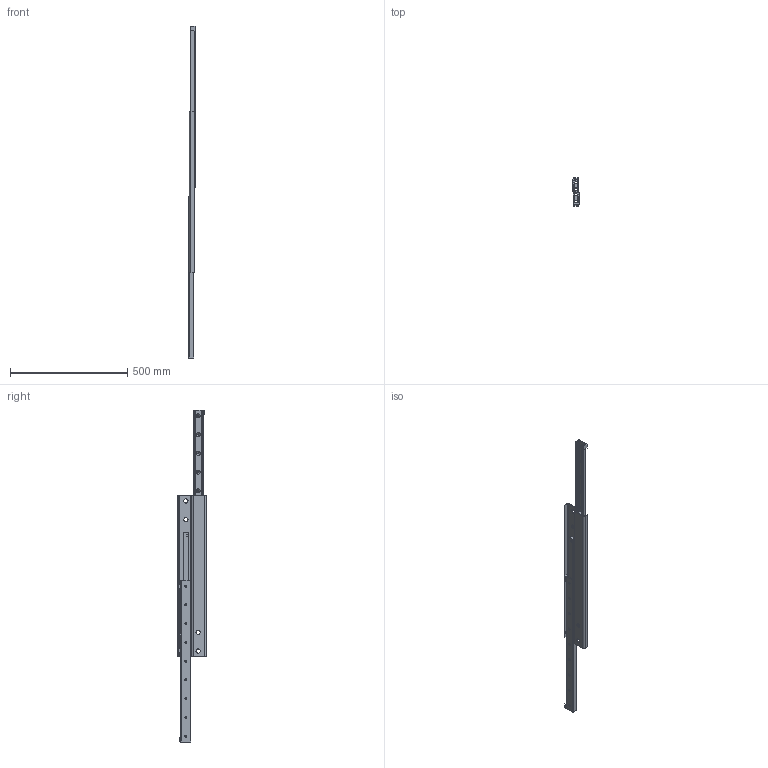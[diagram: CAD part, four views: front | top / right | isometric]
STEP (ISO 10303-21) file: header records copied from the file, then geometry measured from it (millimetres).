
FILE_DESCRIPTION(('STEP AP214'),'1');
FILE_NAME('rail_dss43-690_01.stp','2017-04-17T04:00:55',('TraceParts'),('TraceParts S.A.'),'Spatial InterOp 3D',' ',' ');
FILE_SCHEMA(('automotive_design'));
Length unit declared in the file: millimetre
Products named in the file (3): rail_dss43-690_01_1; rail_dss43-690_01_2; rail_dss43-690_01_3
Bounding box: 28 x 120 x 1416 mm (x, y, z)
Volume: 1239177.4 mm3; surface area: 497564.3 mm2
Topology: 3 solids, 3 shells, 270 faces, 726 edges, 472 vertices
Faces by surface type: plane 138, cylinder 96, cone 36
Entity records: 8599 total; most frequent: DIRECTION 1516, CARTESIAN_POINT 1471, ORIENTED_EDGE 1452, EDGE_CURVE 726, AXIS2_PLACEMENT_3D 517, LINE 482, VECTOR 482, VERTEX_POINT 472
